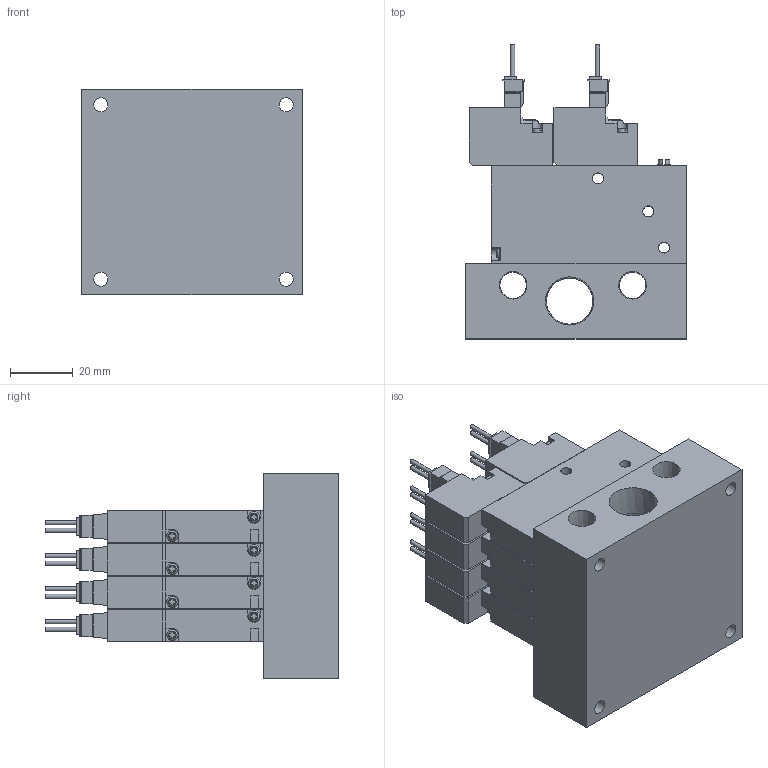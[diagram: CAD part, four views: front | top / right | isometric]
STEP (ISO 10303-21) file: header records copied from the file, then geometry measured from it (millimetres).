
FILE_DESCRIPTION(('STEP AP203'),'1');
FILE_NAME('BMPV42MZZ5A(B)404.stp','2025-04-30T01:47:14',(' '),(' '),'Spatial InterOp 3D',' ',' ');
FILE_SCHEMA(('CONFIG_CONTROL_DESIGN'));
Length unit declared in the file: millimetre
Products named in the file (4): BMPV42MZZ5A(B)404; VACUUM VALVE FUNCTION MPV42-A; UNIT-MPV42; MPV42-M40R-1
Assembly tree (13 placements, depth 2):
  BMPV42MZZ5A(B)404
    VACUUM VALVE FUNCTION MPV42-A  x8
    UNIT-MPV42  x4
    MPV42-M40R-1
Bounding box: 70 x 93.45 x 65.5 mm (x, y, z)
Volume: 202578.8 mm3; surface area: 65865.2 mm2
Topology: 13 solids, 13 shells, 1063 faces, 2865 edges, 1908 vertices
Faces by surface type: plane 862, cylinder 167, cone 18, sphere 8, torus 8
Full cylindrical faces by diameter (mm): 1.4 x16, 1.8 x4, 2.2 x8, 3 x16, 3.5 x28, 4.134 x4, 4.5 x4, 5 x4, 8.441 x2, 14.744 x1
Entity records: 5700 total; most frequent: CARTESIAN_POINT 1042, DIRECTION 912, ORIENTED_EDGE 860, EDGE_CURVE 430, LINE 322, VECTOR 322, VERTEX_POINT 305, AXIS2_PLACEMENT_3D 295
